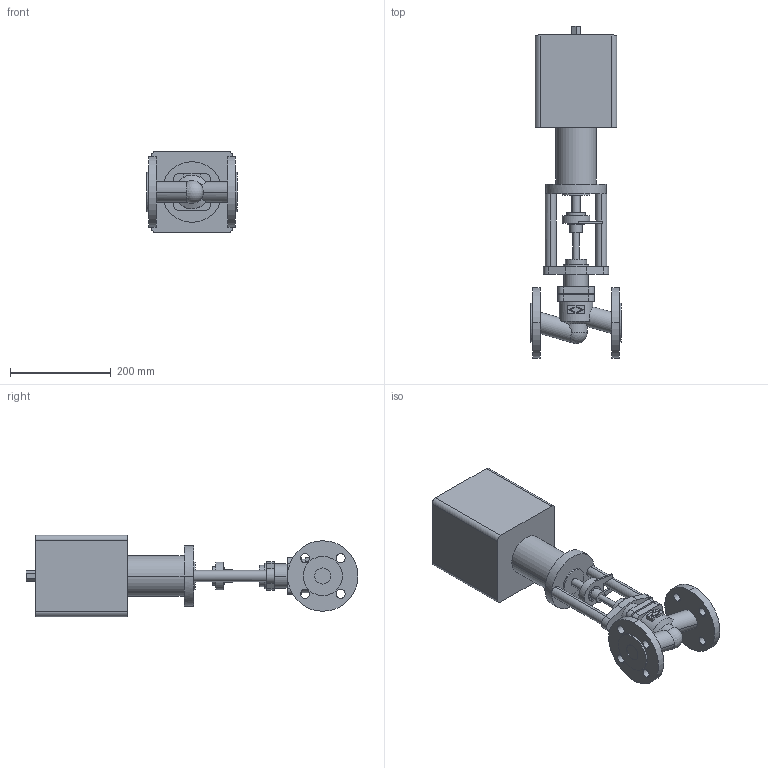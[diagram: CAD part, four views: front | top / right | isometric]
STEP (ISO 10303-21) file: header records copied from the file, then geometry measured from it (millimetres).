
FILE_DESCRIPTION( ( '' ), '1' );
FILE_NAME( 'F:/DE-SHS/TB/OR/04-Sonstiges/daten/files_3d/c000000776.stp', '2014-11-04T12:58:43', ( '' ), ( '' ), ' ', ' ', ' ' );
FILE_SCHEMA( ( 'CONFIG_CONTROL_DESIGN' ) );
Length unit declared in the file: millimetre
Products named in the file (2): 1; 2
Bounding box: 180 x 659.5 x 162 mm (x, y, z)
Volume: 6845343.8 mm3; surface area: 393236.7 mm2
Topology: 2 solids, 2 shells, 162 faces, 395 edges, 261 vertices
Faces by surface type: cylinder 82, plane 77, cone 2, sphere 1
Entity records: 5289 total; most frequent: CARTESIAN_POINT 1206, DIRECTION 883, ORIENTED_EDGE 786, EDGE_CURVE 393, AXIS2_PLACEMENT_3D 340, VERTEX_POINT 261, EDGE_LOOP 204, LINE 203
